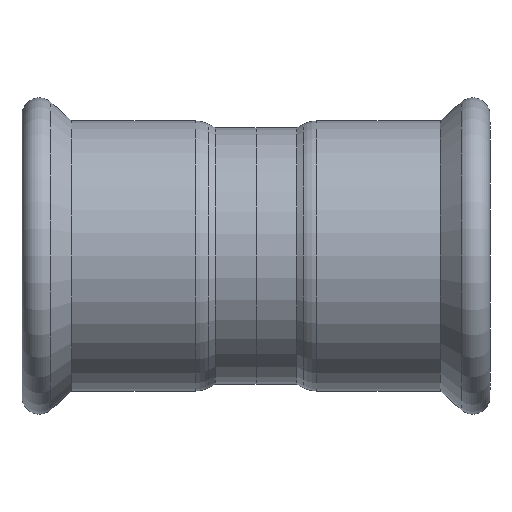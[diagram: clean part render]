
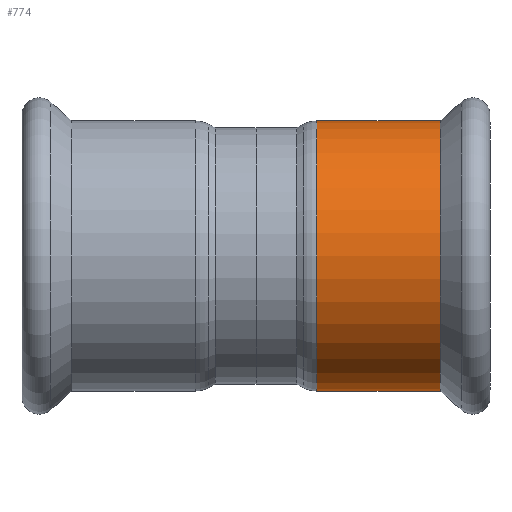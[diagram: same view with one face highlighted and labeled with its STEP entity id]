
A CAD part, front view. The second image highlights one B-rep face of the part: STEP entity #774.
In plain terms, the highlighted cylindrical face has radius 46.75 mm (diameter 93.5 mm), a partial arc.
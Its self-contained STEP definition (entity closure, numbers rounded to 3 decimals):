
#35 = DIRECTION ( 'NONE',  ( -1., 0., 0. ) ) ;
#101 = AXIS2_PLACEMENT_3D ( 'NONE', #727, #587, #1686 ) ;
#221 = FACE_OUTER_BOUND ( 'NONE', #1018, .T. ) ;
#272 = ORIENTED_EDGE ( 'NONE', *, *, #1504, .F. ) ;
#274 = ORIENTED_EDGE ( 'NONE', *, *, #869, .F. ) ;
#283 = CARTESIAN_POINT ( 'NONE',  ( -47.221, 0., 0. ) ) ;
#365 = VERTEX_POINT ( 'NONE', #924 ) ;
#381 = VERTEX_POINT ( 'NONE', #1203 ) ;
#537 = DIRECTION ( 'NONE',  ( -1., 0., 0. ) ) ;
#550 = CARTESIAN_POINT ( 'NONE',  ( 21., 0., 46.75 ) ) ;
#564 = DIRECTION ( 'NONE',  ( -1., 0., 0. ) ) ;
#585 = CARTESIAN_POINT ( 'NONE',  ( -47.221, 0., 46.75 ) ) ;
#587 = DIRECTION ( 'NONE',  ( -1., 0., 0. ) ) ;
#701 = CARTESIAN_POINT ( 'NONE',  ( 63.812, 0., 0. ) ) ;
#727 = CARTESIAN_POINT ( 'NONE',  ( 21., 0., 0. ) ) ;
#734 = EDGE_CURVE ( 'NONE', #780, #365, #1631, .T. ) ;
#774 = ADVANCED_FACE ( 'NONE', ( #221 ), #939, .T. ) ;
#780 = VERTEX_POINT ( 'NONE', #1682 ) ;
#813 = EDGE_CURVE ( 'NONE', #365, #1455, #977, .T. ) ;
#869 = EDGE_CURVE ( 'NONE', #381, #1455, #1150, .T. ) ;
#924 = CARTESIAN_POINT ( 'NONE',  ( 63.812, 0., 46.75 ) ) ;
#939 = CYLINDRICAL_SURFACE ( 'NONE', #1432, 46.75 ) ;
#977 = LINE ( 'NONE', #585, #997 ) ;
#997 = VECTOR ( 'NONE', #35, 1000. ) ;
#1018 = EDGE_LOOP ( 'NONE', ( #272, #1040, #1795, #274 ) ) ;
#1040 = ORIENTED_EDGE ( 'NONE', *, *, #734, .T. ) ;
#1134 = DIRECTION ( 'NONE',  ( 0., 0., 1. ) ) ;
#1150 = CIRCLE ( 'NONE', #101, 46.75 ) ;
#1203 = CARTESIAN_POINT ( 'NONE',  ( 21., 0., -46.75 ) ) ;
#1243 = CARTESIAN_POINT ( 'NONE',  ( -47.221, 0., -46.75 ) ) ;
#1337 = VECTOR ( 'NONE', #537, 1000. ) ;
#1413 = DIRECTION ( 'NONE',  ( 0., 0., 1. ) ) ;
#1432 = AXIS2_PLACEMENT_3D ( 'NONE', #283, #564, #1134 ) ;
#1455 = VERTEX_POINT ( 'NONE', #550 ) ;
#1504 = EDGE_CURVE ( 'NONE', #780, #381, #1743, .T. ) ;
#1505 = AXIS2_PLACEMENT_3D ( 'NONE', #701, #1542, #1413 ) ;
#1542 = DIRECTION ( 'NONE',  ( -1., 0., 0. ) ) ;
#1631 = CIRCLE ( 'NONE', #1505, 46.75 ) ;
#1682 = CARTESIAN_POINT ( 'NONE',  ( 63.812, 0., -46.75 ) ) ;
#1686 = DIRECTION ( 'NONE',  ( 0., 0., 1. ) ) ;
#1743 = LINE ( 'NONE', #1243, #1337 ) ;
#1795 = ORIENTED_EDGE ( 'NONE', *, *, #813, .T. ) ;
